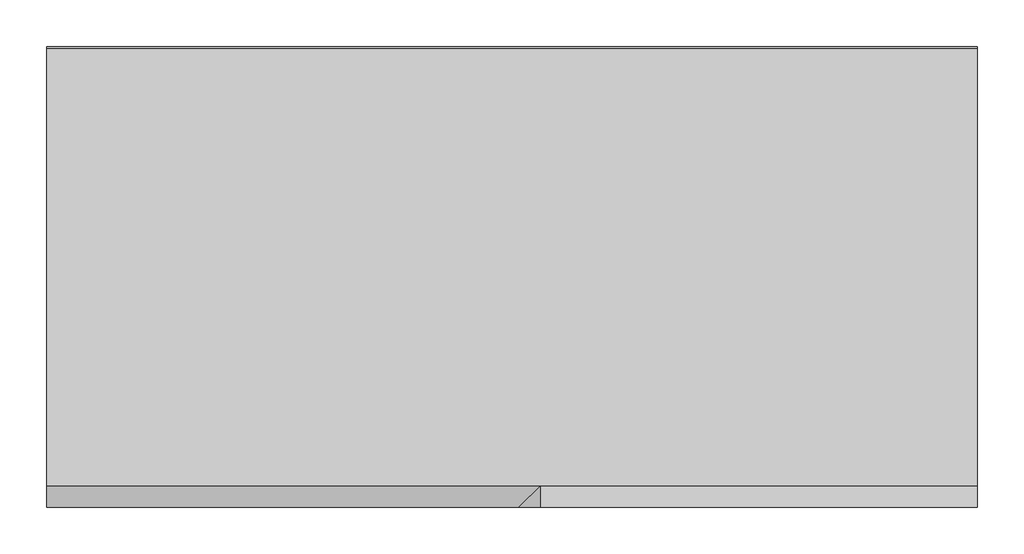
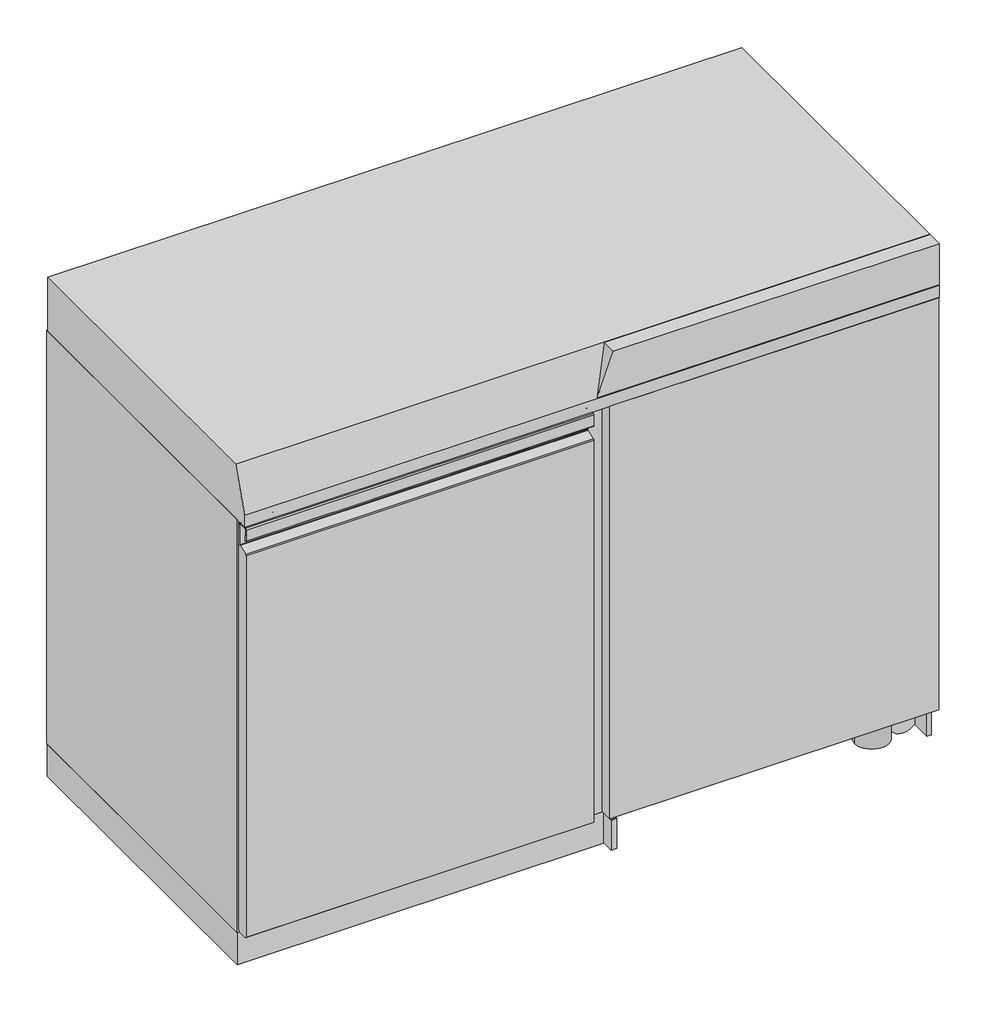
# Not in any storey: 1 proxy.
"""IFC4 building model written with IfcOpenShell, lengths in millimetres."""

from ifc_helpers import new_model, si_unit, origin, place, context, project, spatial, transform, mapped, element, save
from components import specialty_equipment_c826cc0a

model = new_model("IFC4")

# Units and contexts
model_context = context("Model", 3, world=origin())
ifc_project = project(units=[si_unit("LENGTHUNIT", "METRE", prefix="MILLI")], contexts=[model_context])

# Site, building
site = spatial("IfcSite", under=ifc_project)
building = spatial("IfcBuilding", under=site)

# Proxy
placement = place(None, origin())
specialty_equipment_shape = specialty_equipment_c826cc0a(model_context)
element("IfcBuildingElementProxy", 1, Name="12762880_D_OSD1290WBL : 331B9DSW_D_12762880_OSD1290WBL", ObjectType="12762880_D_OSD1290WBL : 331B9DSW_D_12762880_OSD1290WBL", at=placement, inside=building, context=model_context, shape_type="MappedRepresentation", body=[
    mapped(specialty_equipment_shape, transform((0.0, 0.0, 0.0), x_axis=(1.0, 0.0, 0.0), y_axis=(0.0, 1.0, 0.0), z_axis=(0.0, 0.0, 1.0))),
])

save(model, "model.ifc")
